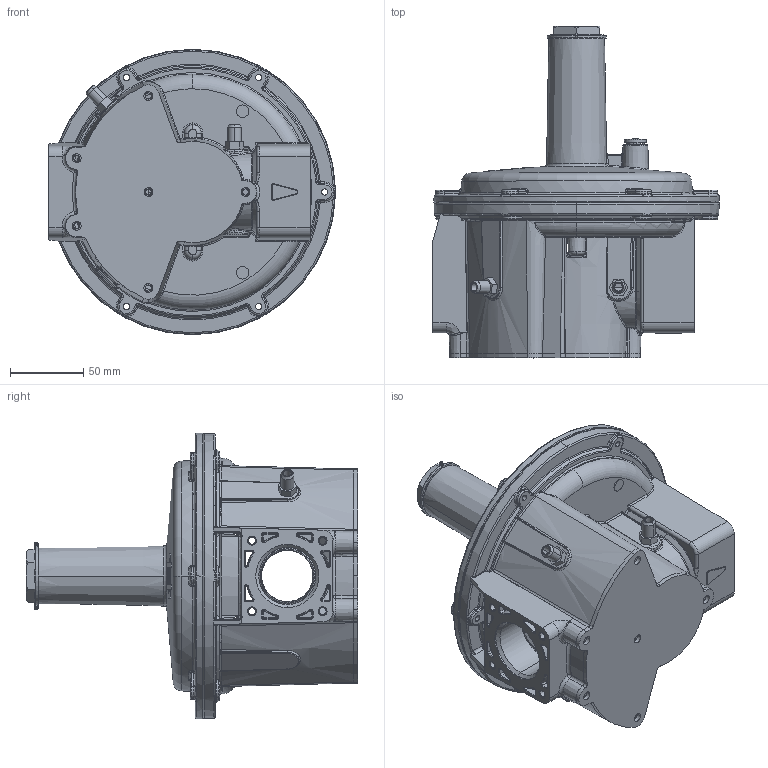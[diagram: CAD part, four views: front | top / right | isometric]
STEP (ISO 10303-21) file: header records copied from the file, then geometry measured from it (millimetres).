
FILE_DESCRIPTION (( 'STEP AP203' ), '1' );
FILE_NAME ('009.0223.101-.STEP', '2014-01-13T15:45:04', ( 'Adminwatts' ), ( 'Microsoft' ), 'SwSTEP 2.0', 'SolidWorks 2012', '' );
FILE_SCHEMA (( 'CONFIG_CONTROL_DESIGN' ));
Length unit declared in the file: millimetre
Products named in the file (1): 009.0223.101-
Bounding box: 195.12 x 225.8 x 194.25 mm (x, y, z)
Surface area: 176738 mm2 (no closed solid volume)
Topology: 0 solids, 11 shells, 1325 faces, 3858 edges, 2418 vertices
Faces by surface type: plane 294, torus 281, cylinder 258, bspline 244, cone 213, sphere 35
Entity records: 55100 total; most frequent: CARTESIAN_POINT 22542, DIRECTION 6695, ORIENTED_EDGE 6632, EDGE_CURVE 3817, AXIS2_PLACEMENT_3D 2781, VERTEX_POINT 2418, CIRCLE 1699, EDGE_LOOP 1428
